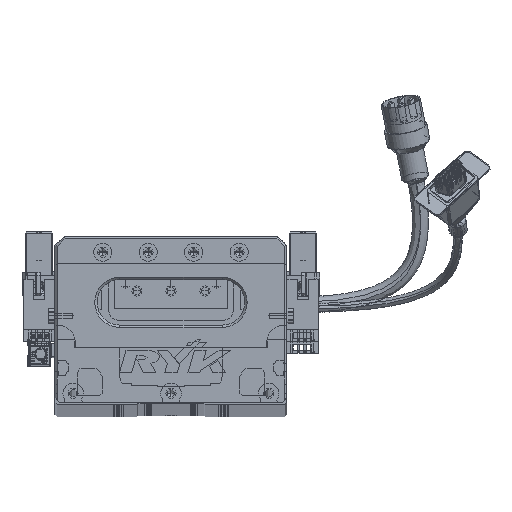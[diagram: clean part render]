
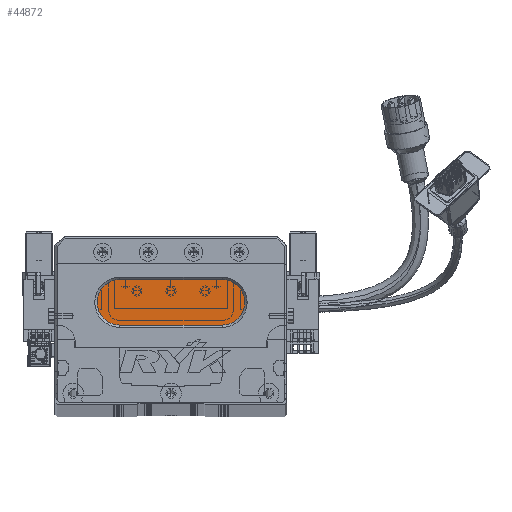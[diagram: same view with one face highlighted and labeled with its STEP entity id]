
A CAD part, top view. The second image highlights one B-rep face of the part: STEP entity #44872.
In plain terms, the highlighted planar face has unit normal (0, 0, 1) as drawn and (0, 0, -1) by its records, which use the part's own axes.
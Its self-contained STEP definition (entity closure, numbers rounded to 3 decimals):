
#2493 = CARTESIAN_POINT ( 'NONE',  ( 28.5, 54., 13. ) ) ;
#2662 = DIRECTION ( 'NONE',  ( -1., 0., 0. ) ) ;
#2864 = FACE_OUTER_BOUND ( 'NONE', #11415, .T. ) ;
#5457 = CARTESIAN_POINT ( 'NONE',  ( 73.5, 34., 13. ) ) ;
#9017 = CARTESIAN_POINT ( 'NONE',  ( 73.5, 54., 13. ) ) ;
#9091 = DIRECTION ( 'NONE',  ( -1., 0., 0. ) ) ;
#9171 = ORIENTED_EDGE ( 'NONE', *, *, #9342, .T. ) ;
#9342 = EDGE_CURVE ( 'NONE', #78541, #50130, #75436, .T. ) ;
#10468 = AXIS2_PLACEMENT_3D ( 'NONE', #25821, #47174, #11982 ) ;
#11415 = EDGE_LOOP ( 'NONE', ( #9171, #46575, #62057, #81138, #36321 ) ) ;
#11982 = DIRECTION ( 'NONE',  ( -1., 0., 0. ) ) ;
#14834 = EDGE_CURVE ( 'NONE', #90005, #67411, #82138, .T. ) ;
#14931 = DIRECTION ( 'NONE',  ( 0., 0., -1. ) ) ;
#25821 = CARTESIAN_POINT ( 'NONE',  ( 28.5, 44., 13. ) ) ;
#25980 = CARTESIAN_POINT ( 'NONE',  ( 73.5, 54., 13. ) ) ;
#34784 = EDGE_CURVE ( 'NONE', #67411, #42581, #80320, .T. ) ;
#36321 = ORIENTED_EDGE ( 'NONE', *, *, #68712, .T. ) ;
#40303 = DIRECTION ( 'NONE',  ( -1., 0., 0. ) ) ;
#42070 = AXIS2_PLACEMENT_3D ( 'NONE', #68234, #75321, #89823 ) ;
#42581 = VERTEX_POINT ( 'NONE', #2493 ) ;
#42601 = AXIS2_PLACEMENT_3D ( 'NONE', #59100, #44965, #2662 ) ;
#42877 = EDGE_CURVE ( 'NONE', #50130, #90005, #64811, .T. ) ;
#44872 = ADVANCED_FACE ( 'NONE', ( #2864 ), #83065, .T. ) ;
#44965 = DIRECTION ( 'NONE',  ( 0., 0., -1. ) ) ;
#45024 = VECTOR ( 'NONE', #40303, 1000. ) ;
#46575 = ORIENTED_EDGE ( 'NONE', *, *, #42877, .T. ) ;
#47174 = DIRECTION ( 'NONE',  ( 0., 0., -1. ) ) ;
#47563 = LINE ( 'NONE', #25980, #49752 ) ;
#49752 = VECTOR ( 'NONE', #62399, 1000. ) ;
#50130 = VERTEX_POINT ( 'NONE', #59632 ) ;
#59100 = CARTESIAN_POINT ( 'NONE',  ( 28.5, 44., 13. ) ) ;
#59632 = CARTESIAN_POINT ( 'NONE',  ( 73.5, 34., 13. ) ) ;
#60306 = AXIS2_PLACEMENT_3D ( 'NONE', #65502, #14931, #9091 ) ;
#62057 = ORIENTED_EDGE ( 'NONE', *, *, #14834, .T. ) ;
#62399 = DIRECTION ( 'NONE',  ( 1., 0., 0. ) ) ;
#64811 = LINE ( 'NONE', #5457, #45024 ) ;
#65502 = CARTESIAN_POINT ( 'NONE',  ( 73.5, 44., 13. ) ) ;
#67411 = VERTEX_POINT ( 'NONE', #74634 ) ;
#68234 = CARTESIAN_POINT ( 'NONE',  ( 73.5, 44., 13. ) ) ;
#68712 = EDGE_CURVE ( 'NONE', #42581, #78541, #47563, .T. ) ;
#74634 = CARTESIAN_POINT ( 'NONE',  ( 18.5, 44., 13. ) ) ;
#75321 = DIRECTION ( 'NONE',  ( 0., 0., -1. ) ) ;
#75436 = CIRCLE ( 'NONE', #60306, 10. ) ;
#78541 = VERTEX_POINT ( 'NONE', #9017 ) ;
#80320 = CIRCLE ( 'NONE', #42601, 10. ) ;
#81138 = ORIENTED_EDGE ( 'NONE', *, *, #34784, .T. ) ;
#82138 = CIRCLE ( 'NONE', #10468, 10. ) ;
#83065 = PLANE ( 'NONE',  #42070 ) ;
#85861 = CARTESIAN_POINT ( 'NONE',  ( 28.5, 34., 13. ) ) ;
#89823 = DIRECTION ( 'NONE',  ( -1., 0., 0. ) ) ;
#90005 = VERTEX_POINT ( 'NONE', #85861 ) ;
